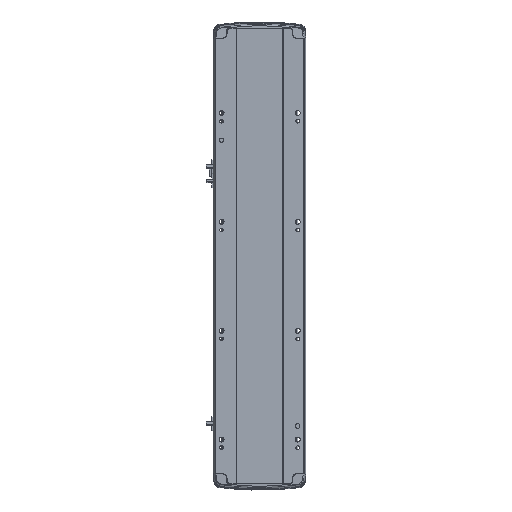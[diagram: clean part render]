
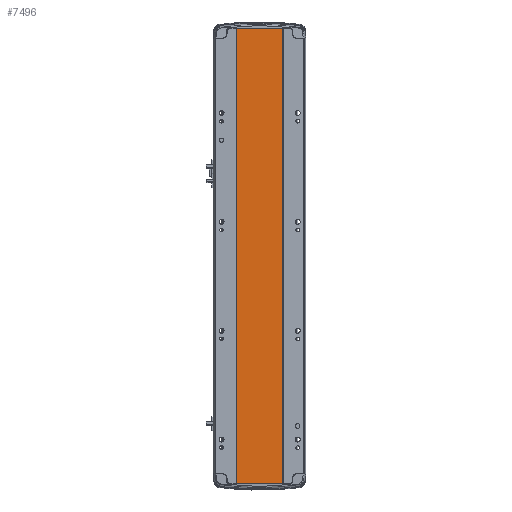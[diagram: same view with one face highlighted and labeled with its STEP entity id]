
A CAD part, front view. The second image highlights one B-rep face of the part: STEP entity #7496.
In plain terms, the highlighted planar face has unit normal (0, -1, 0).
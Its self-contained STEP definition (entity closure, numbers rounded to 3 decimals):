
#191 = CARTESIAN_POINT ( 'NONE',  ( 41.793, 0.998, 0. ) ) ;
#961 = VECTOR ( 'NONE', #22215, 1000. ) ;
#2309 = CARTESIAN_POINT ( 'NONE',  ( -41.791, 1., 0. ) ) ;
#2507 = DIRECTION ( 'NONE',  ( 0., 0., -1. ) ) ;
#3506 = CARTESIAN_POINT ( 'NONE',  ( 0., 0.999, 834.5 ) ) ;
#3886 = CARTESIAN_POINT ( 'NONE',  ( -41.791, 1., 834.5 ) ) ;
#7485 = CARTESIAN_POINT ( 'NONE',  ( 41.793, 0.998, 834.5 ) ) ;
#7496 = ADVANCED_FACE ( 'NONE', ( #39727 ), #8321, .F. ) ;
#8321 = PLANE ( 'NONE',  #39745 ) ;
#8329 = ORIENTED_EDGE ( 'NONE', *, *, #33865, .F. ) ;
#9394 = VECTOR ( 'NONE', #2507, 1000. ) ;
#11258 = DIRECTION ( 'NONE',  ( 0., 1., 0. ) ) ;
#12563 = DIRECTION ( 'NONE',  ( 1., 0., 0. ) ) ;
#13691 = LINE ( 'NONE', #39420, #9394 ) ;
#13697 = EDGE_CURVE ( 'NONE', #22413, #14769, #26347, .T. ) ;
#14769 = VERTEX_POINT ( 'NONE', #2309 ) ;
#16155 = VERTEX_POINT ( 'NONE', #7485 ) ;
#17021 = ORIENTED_EDGE ( 'NONE', *, *, #33214, .F. ) ;
#19119 = CARTESIAN_POINT ( 'NONE',  ( 0., 0.999, 0. ) ) ;
#19463 = DIRECTION ( 'NONE',  ( 0., 0., -1. ) ) ;
#19762 = CARTESIAN_POINT ( 'NONE',  ( -41.791, 1., 834.5 ) ) ;
#21416 = LINE ( 'NONE', #3506, #30585 ) ;
#21428 = EDGE_LOOP ( 'NONE', ( #37395, #17021, #8329, #34794 ) ) ;
#22215 = DIRECTION ( 'NONE',  ( 1., 0., 0. ) ) ;
#22413 = VERTEX_POINT ( 'NONE', #19762 ) ;
#26347 = LINE ( 'NONE', #3886, #32604 ) ;
#26985 = LINE ( 'NONE', #19119, #961 ) ;
#29932 = CARTESIAN_POINT ( 'NONE',  ( 0., 0.999, 834.5 ) ) ;
#30585 = VECTOR ( 'NONE', #12563, 1000. ) ;
#31886 = EDGE_CURVE ( 'NONE', #14769, #38257, #26985, .T. ) ;
#32604 = VECTOR ( 'NONE', #19463, 1000. ) ;
#33214 = EDGE_CURVE ( 'NONE', #16155, #38257, #13691, .T. ) ;
#33865 = EDGE_CURVE ( 'NONE', #22413, #16155, #21416, .T. ) ;
#34794 = ORIENTED_EDGE ( 'NONE', *, *, #13697, .T. ) ;
#35598 = DIRECTION ( 'NONE',  ( -1., 0., 0. ) ) ;
#37395 = ORIENTED_EDGE ( 'NONE', *, *, #31886, .T. ) ;
#38257 = VERTEX_POINT ( 'NONE', #191 ) ;
#39420 = CARTESIAN_POINT ( 'NONE',  ( 41.793, 0.998, 834.5 ) ) ;
#39727 = FACE_OUTER_BOUND ( 'NONE', #21428, .T. ) ;
#39745 = AXIS2_PLACEMENT_3D ( 'NONE', #29932, #11258, #35598 ) ;
